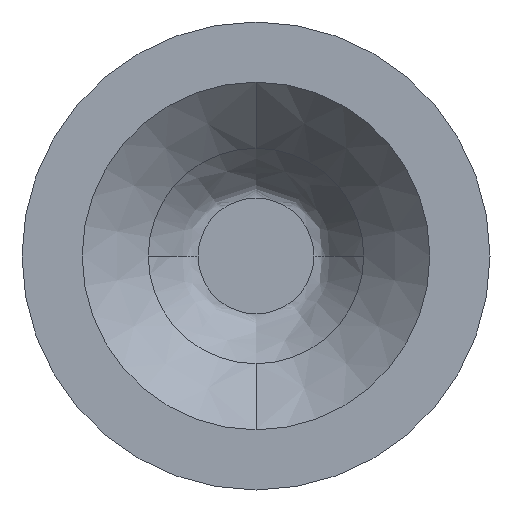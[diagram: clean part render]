
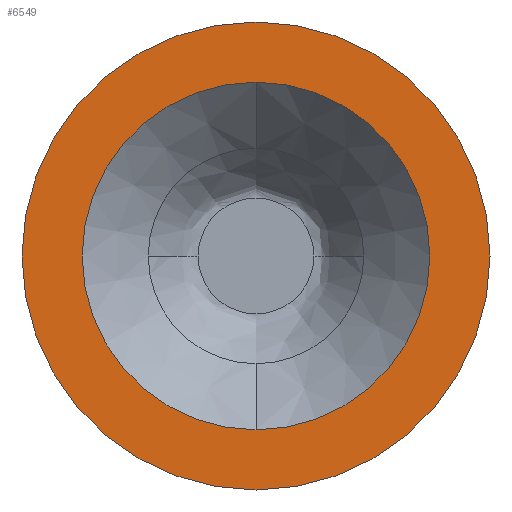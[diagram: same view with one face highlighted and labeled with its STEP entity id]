
A CAD part, front view. The second image highlights one B-rep face of the part: STEP entity #6549.
In plain terms, the highlighted planar face has unit normal (0, -1, 0).
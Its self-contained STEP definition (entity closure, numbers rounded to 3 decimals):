
#23 = DIRECTION ( 'NONE',  ( 0., 0., -1. ) ) ;
#42 = EDGE_LOOP ( 'NONE', ( #6040, #6183 ) ) ;
#82 = EDGE_LOOP ( 'NONE', ( #788, #9424 ) ) ;
#142 = DIRECTION ( 'NONE',  ( 0., 0., -1. ) ) ;
#393 = DIRECTION ( 'NONE',  ( 0., -1., 0. ) ) ;
#517 = VERTEX_POINT ( 'NONE', #5766 ) ;
#788 = ORIENTED_EDGE ( 'NONE', *, *, #5938, .T. ) ;
#1181 = DIRECTION ( 'NONE',  ( 0., -1., 0. ) ) ;
#1321 = DIRECTION ( 'NONE',  ( 0., -1., 0. ) ) ;
#1565 = CARTESIAN_POINT ( 'NONE',  ( 0., 0., 0. ) ) ;
#2046 = AXIS2_PLACEMENT_3D ( 'NONE', #1565, #393, #10712 ) ;
#2366 = CARTESIAN_POINT ( 'NONE',  ( 45., 0., 0. ) ) ;
#2381 = EDGE_CURVE ( 'NONE', #5079, #9819, #4080, .T. ) ;
#2503 = CARTESIAN_POINT ( 'NONE',  ( 0., 0., 0. ) ) ;
#2506 = CIRCLE ( 'NONE', #9972, 33.428 ) ;
#3439 = CARTESIAN_POINT ( 'NONE',  ( 0., 0., 33.428 ) ) ;
#3511 = CARTESIAN_POINT ( 'NONE',  ( 0., 0., 45. ) ) ;
#3628 = CIRCLE ( 'NONE', #2046, 45. ) ;
#4080 = CIRCLE ( 'NONE', #5241, 33.428 ) ;
#4723 = PLANE ( 'NONE',  #5047 ) ;
#4927 = DIRECTION ( 'NONE',  ( 0., 0., 1. ) ) ;
#5047 = AXIS2_PLACEMENT_3D ( 'NONE', #2366, #1181, #23 ) ;
#5079 = VERTEX_POINT ( 'NONE', #7239 ) ;
#5091 = CIRCLE ( 'NONE', #10156, 45. ) ;
#5241 = AXIS2_PLACEMENT_3D ( 'NONE', #9048, #7874, #6708 ) ;
#5766 = CARTESIAN_POINT ( 'NONE',  ( 0., 0., -45. ) ) ;
#5938 = EDGE_CURVE ( 'NONE', #517, #10204, #5091, .T. ) ;
#6040 = ORIENTED_EDGE ( 'NONE', *, *, #2381, .F. ) ;
#6111 = DIRECTION ( 'NONE',  ( 0., -1., 0. ) ) ;
#6183 = ORIENTED_EDGE ( 'NONE', *, *, #7650, .F. ) ;
#6240 = FACE_BOUND ( 'NONE', #42, .T. ) ;
#6543 = FACE_OUTER_BOUND ( 'NONE', #82, .T. ) ;
#6549 = ADVANCED_FACE ( 'NONE', ( #6240, #6543 ), #4723, .T. ) ;
#6708 = DIRECTION ( 'NONE',  ( 0., 0., 1. ) ) ;
#7239 = CARTESIAN_POINT ( 'NONE',  ( 0., 0., -33.428 ) ) ;
#7287 = CARTESIAN_POINT ( 'NONE',  ( 0., 0., 0. ) ) ;
#7650 = EDGE_CURVE ( 'NONE', #9819, #5079, #2506, .T. ) ;
#7874 = DIRECTION ( 'NONE',  ( 0., -1., 0. ) ) ;
#9048 = CARTESIAN_POINT ( 'NONE',  ( 0., 0., 0. ) ) ;
#9424 = ORIENTED_EDGE ( 'NONE', *, *, #10409, .T. ) ;
#9819 = VERTEX_POINT ( 'NONE', #3439 ) ;
#9972 = AXIS2_PLACEMENT_3D ( 'NONE', #7287, #6111, #4927 ) ;
#10156 = AXIS2_PLACEMENT_3D ( 'NONE', #2503, #1321, #142 ) ;
#10204 = VERTEX_POINT ( 'NONE', #3511 ) ;
#10409 = EDGE_CURVE ( 'NONE', #10204, #517, #3628, .T. ) ;
#10712 = DIRECTION ( 'NONE',  ( 0., 0., -1. ) ) ;
